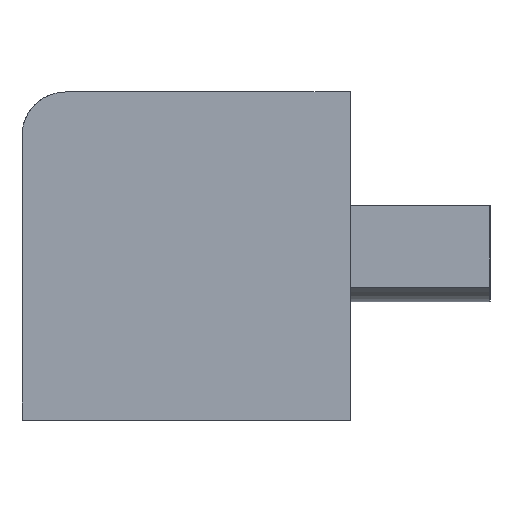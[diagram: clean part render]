
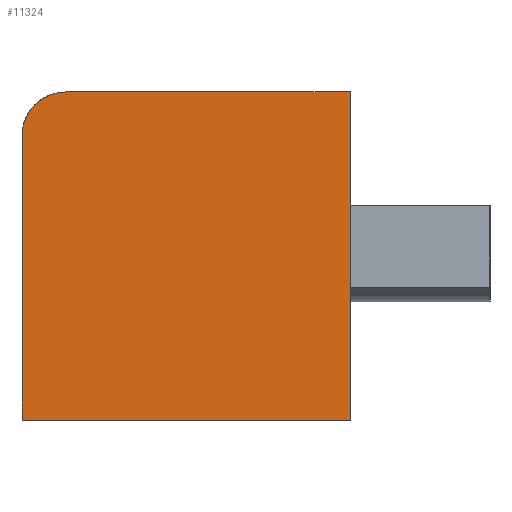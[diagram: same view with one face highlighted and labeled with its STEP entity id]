
A CAD part, left-side view. The second image highlights one B-rep face of the part: STEP entity #11324.
In plain terms, the highlighted planar face has unit normal (-1, 0, 0).
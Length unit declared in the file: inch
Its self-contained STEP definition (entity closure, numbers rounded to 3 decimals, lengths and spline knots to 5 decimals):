
#1=DIRECTION('',(0.,0.,-1.));
#2=VECTOR('',#1,0.75);
#3=CARTESIAN_POINT('',(-1.1,0.,0.37));
#4=LINE('',#3,#2);
#5=DIRECTION('',(0.,1.,0.));
#6=VECTOR('',#5,0.75);
#7=CARTESIAN_POINT('',(-1.1,0.,-0.38));
#8=LINE('',#7,#6);
#9=DIRECTION('',(0.,0.,1.));
#10=VECTOR('',#9,0.65);
#11=CARTESIAN_POINT('',(-1.1,0.75,-0.38));
#12=LINE('',#11,#10);
#13=CARTESIAN_POINT('',(-1.1,0.65,0.27));
#14=DIRECTION('',(1.,0.,0.));
#15=DIRECTION('',(0.,1.,0.));
#16=AXIS2_PLACEMENT_3D('',#13,#14,#15);
#18=DIRECTION('',(0.,-1.,0.));
#19=VECTOR('',#18,0.65);
#20=CARTESIAN_POINT('',(-1.1,0.65,0.37));
#21=LINE('',#20,#19);
#8755=CARTESIAN_POINT('',(-1.1,0.,0.37));
#8756=CARTESIAN_POINT('',(-1.1,0.,-0.38));
#8757=VERTEX_POINT('',#8755);
#8758=VERTEX_POINT('',#8756);
#8759=CARTESIAN_POINT('',(-1.1,0.75,-0.38));
#8760=VERTEX_POINT('',#8759);
#8761=CARTESIAN_POINT('',(-1.1,0.75,0.27));
#8762=VERTEX_POINT('',#8761);
#8763=CARTESIAN_POINT('',(-1.1,0.65,0.37));
#8764=VERTEX_POINT('',#8763);
#11307=CARTESIAN_POINT('',(-1.1,0.,0.));
#11308=DIRECTION('',(1.,0.,0.));
#11309=DIRECTION('',(0.,0.,-1.));
#11310=AXIS2_PLACEMENT_3D('',#11307,#11308,#11309);
#11311=PLANE('',#11310);
#11313=ORIENTED_EDGE('',*,*,#11312,.T.);
#11315=ORIENTED_EDGE('',*,*,#11314,.T.);
#11317=ORIENTED_EDGE('',*,*,#11316,.T.);
#11319=ORIENTED_EDGE('',*,*,#11318,.T.);
#11321=ORIENTED_EDGE('',*,*,#11320,.T.);
#11322=EDGE_LOOP('',(#11313,#11315,#11317,#11319,#11321));
#11323=FACE_OUTER_BOUND('',#11322,.F.);
#11324=ADVANCED_FACE('',(#11323),#11311,.F.);
#17=CIRCLE('',#16,0.1);
#11312=EDGE_CURVE('',#8757,#8758,#4,.T.);
#11314=EDGE_CURVE('',#8758,#8760,#8,.T.);
#11316=EDGE_CURVE('',#8760,#8762,#12,.T.);
#11318=EDGE_CURVE('',#8762,#8764,#17,.T.);
#11320=EDGE_CURVE('',#8764,#8757,#21,.T.);
